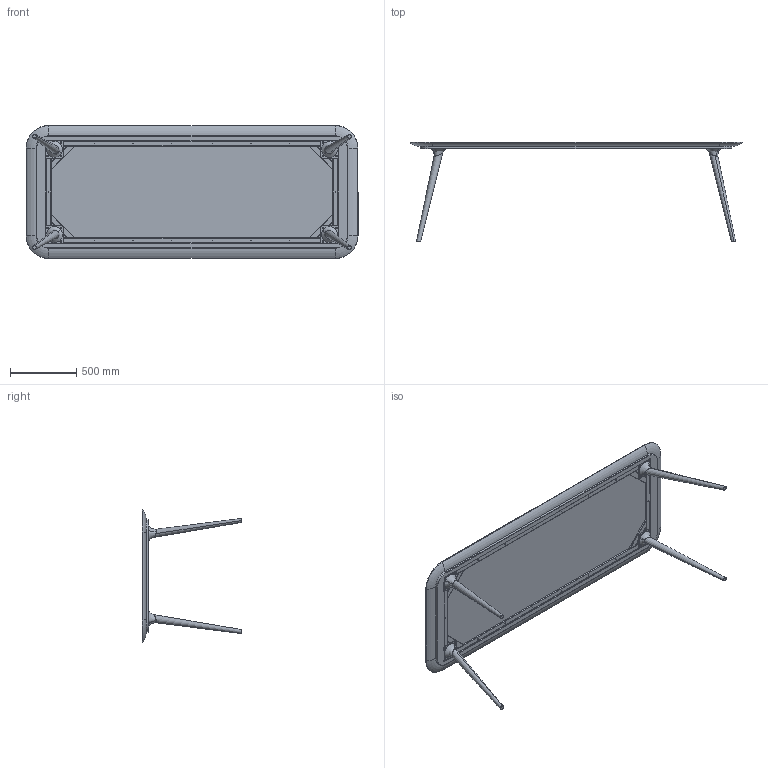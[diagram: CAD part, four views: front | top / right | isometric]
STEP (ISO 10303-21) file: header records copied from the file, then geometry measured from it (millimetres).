
FILE_DESCRIPTION (( 'STEP AP214' ), '1' );
FILE_NAME ('Zio_Dining_Table_250x100.STEP', '2014-08-28T09:15:27', ( '' ), ( '' ), 'SwSTEP 2.0', 'SolidWorks 2014', '' );
FILE_SCHEMA (( 'AUTOMOTIVE_DESIGN' ));
Length unit declared in the file: millimetre
Products named in the file (1): Zio_Dining_Table_250x100
Bounding box: 2500.45 x 749.96 x 1000.42 mm (x, y, z)
Volume: 78651743.4 mm3; surface area: 8201817.3 mm2
Topology: 15 solids, 15 shells, 611 faces, 1559 edges, 956 vertices
Faces by surface type: cylinder 297, cone 148, plane 138, bspline 16, torus 12
Entity records: 28532 total; most frequent: CARTESIAN_POINT 6363, DIRECTION 3357, ORIENTED_EDGE 2982, EDGE_CURVE 1491, AXIS2_PLACEMENT_3D 1310, VERTEX_POINT 956, EDGE_LOOP 853, VECTOR 737
